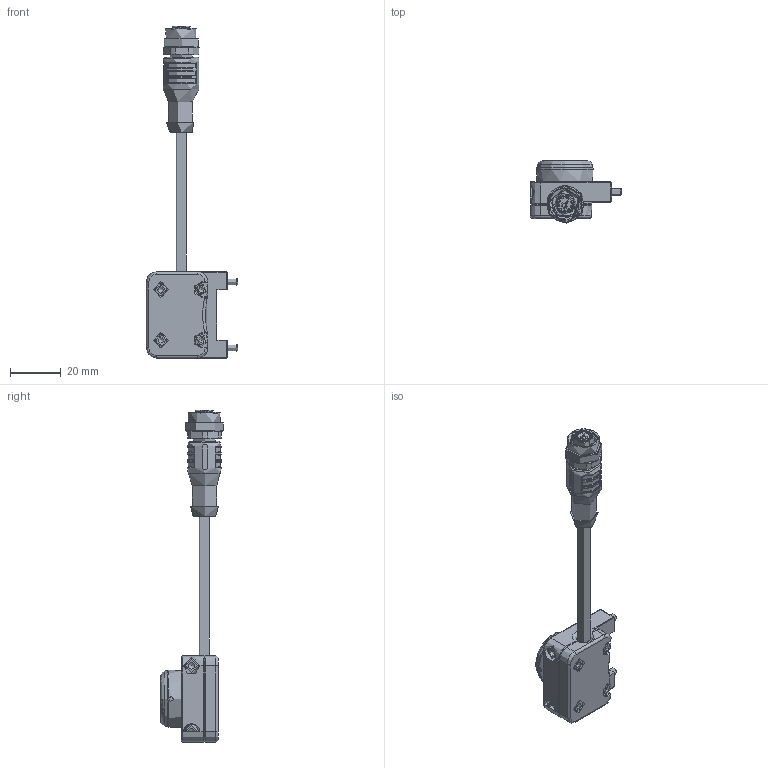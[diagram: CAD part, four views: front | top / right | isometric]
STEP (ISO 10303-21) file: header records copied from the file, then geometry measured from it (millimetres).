
FILE_DESCRIPTION(/* description */ (''),/* implementation_level */ '2;1');
FILE_NAME(/* name */ 'G-SEK100-U-1E12-300-M12_.stp',/* time_stamp */ '2025-11-25T10:38:44+01:00',/* author */ ('ysplieth'),/* organization */ (''),/* preprocessor_version */ 'ST-DEVELOPER v20.1',/* originating_system */ 'Autodesk Inventor 2026',/* authorisation */ '');
FILE_SCHEMA (('AUTOMOTIVE_DESIGN { 1 0 10303 214 3 1 1 }'));
Length unit declared in the file: millimetre
Products named in the file (1): Bauteil6
Bounding box: 36 x 24.69 x 130.9 mm (x, y, z)
Volume: 19487 mm3; surface area: 13929.3 mm2
Topology: 2 solids, 10 shells, 824 faces, 2069 edges, 1316 vertices
Faces by surface type: plane 337, cylinder 194, bspline 152, cone 91, torus 50
Full cylindrical faces by diameter (mm): 0.7 x12, 1 x12, 1.6 x12, 2 x17, 2.013 x4, 2.5 x4, 2.9 x4, 3 x2, 3.4 x2, 4.5 x4, 5.2 x1, 5.5 x4, 6.5 x2, 8.7 x1, 10.2 x1, 10.95 x1, 12.3 x1, 12.8 x1, 14 x2, 15 x1, 15.9 x1, 17 x1, 17.1 x1, 18 x1, 22.6 x1
Entity records: 32225 total; most frequent: CARTESIAN_POINT 12355, ORIENTED_EDGE 4088, DIRECTION 3694, EDGE_CURVE 2044, AXIS2_PLACEMENT_3D 1353, VERTEX_POINT 1316, LINE 988, VECTOR 988
